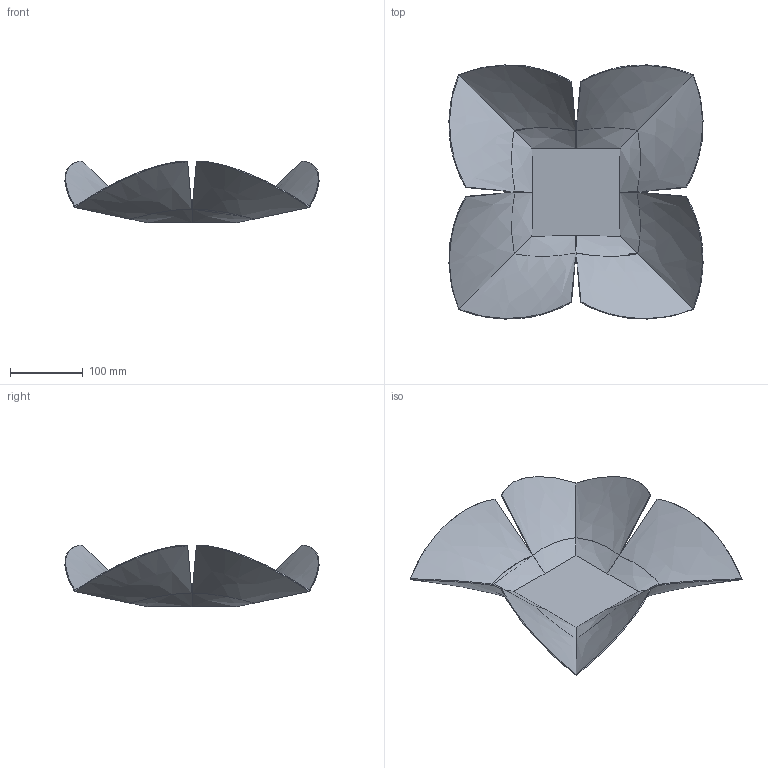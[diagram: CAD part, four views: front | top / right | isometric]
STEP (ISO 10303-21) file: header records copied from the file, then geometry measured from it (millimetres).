
FILE_DESCRIPTION(/* description */ (''),/* implementation_level */ '2;1');
FILE_NAME(/* name */ 'Apax',/* time_stamp */ '2025-07-10T12:39:00+02:00',/* author */ (''),/* organization */ (''),/* preprocessor_version */ 'ST-DEVELOPER v16.5',/* originating_system */ 'Rhino 7.37',/* authorisation */ '');
FILE_SCHEMA (('AUTOMOTIVE_DESIGN'));
Length unit declared in the file: millimetre
Products named in the file (1): Document
Bounding box: 350.21 x 350.21 x 85.11 mm (x, y, z)
Volume: 207607 mm3; surface area: 281143.5 mm2
Topology: 1 solids, 1 shells, 86 faces, 192 edges, 90 vertices
Faces by surface type: bspline 68, plane 18
Entity records: 2894 total; most frequent: CARTESIAN_POINT 1784, ORIENTED_EDGE 352, EDGE_CURVE 176, B_SPLINE_CURVE_WITH_KNOTS 98, VERTEX_POINT 90, ADVANCED_FACE 86, FACE_OUTER_BOUND 86, EDGE_LOOP 86
